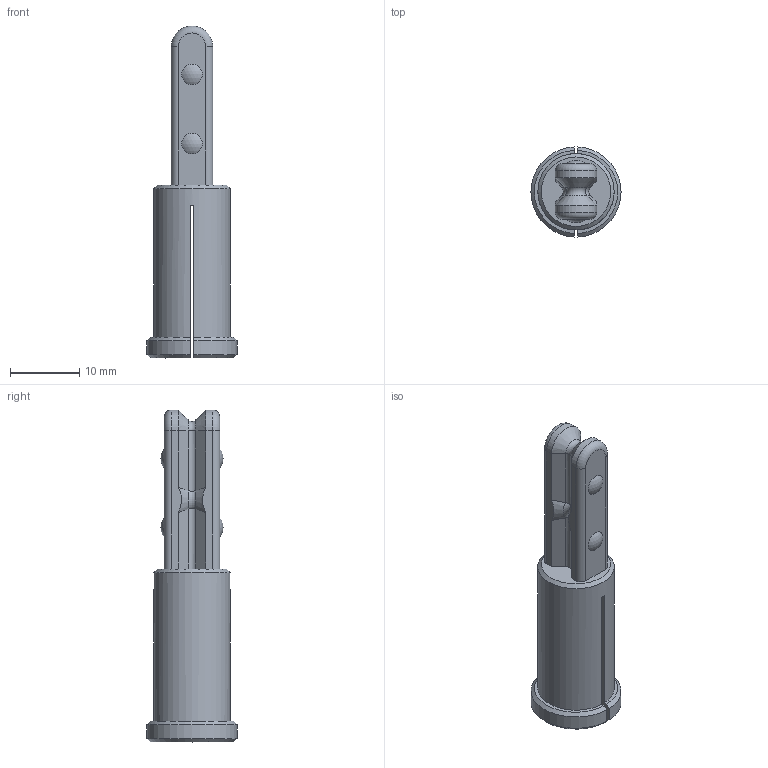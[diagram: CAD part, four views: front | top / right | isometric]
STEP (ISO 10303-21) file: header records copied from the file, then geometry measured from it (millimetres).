
FILE_DESCRIPTION(/* description */ (''),/* implementation_level */ '2;1');
FILE_NAME(/* name */ 'topper.step',/* time_stamp */ '2025-08-29T14:58:43-04:00',/* author */ (''),/* organization */ (''),/* preprocessor_version */ 'ST-DEVELOPER v20.1',/* originating_system */ 'Autodesk Translation Framework v14.10.0.0',/* authorisation */ '');
FILE_SCHEMA (('AUTOMOTIVE_DESIGN { 1 0 10303 214 3 1 1 }'));
Length unit declared in the file: millimetre
Products named in the file (1): topper
Bounding box: 13.04 x 13.03 x 48 mm (x, y, z)
Volume: 2325.3 mm3; surface area: 2387 mm2
Topology: 1 solids, 1 shells, 63 faces, 159 edges, 99 vertices
Faces by surface type: plane 24, cylinder 17, cone 11, torus 7, sphere 4
Full cylindrical faces by diameter (mm): 11.04 x1
Entity records: 1997 total; most frequent: CARTESIAN_POINT 530, ORIENTED_EDGE 302, DIRECTION 298, EDGE_CURVE 151, AXIS2_PLACEMENT_3D 115, VERTEX_POINT 95, LINE 68, VECTOR 68
